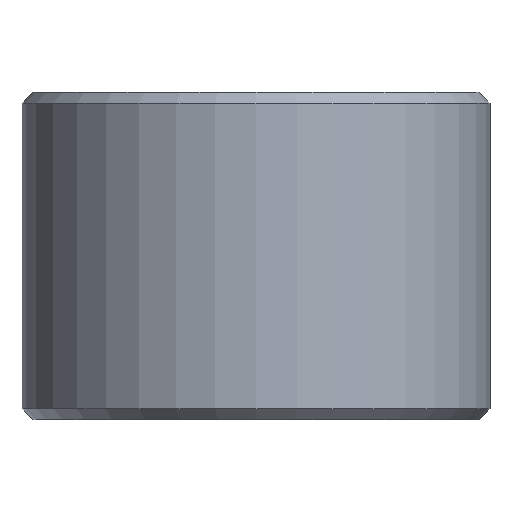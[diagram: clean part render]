
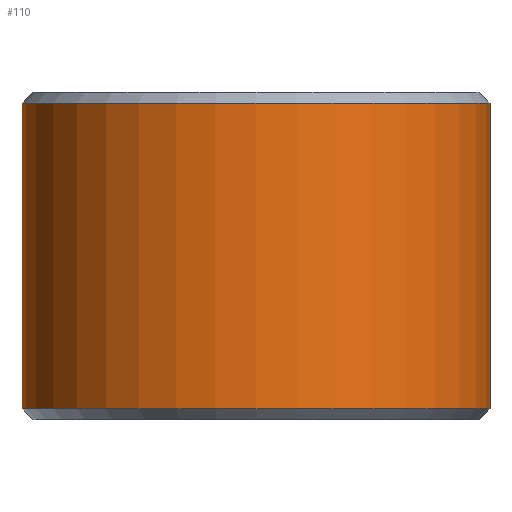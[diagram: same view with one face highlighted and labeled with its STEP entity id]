
A CAD part, front view. The second image highlights one B-rep face of the part: STEP entity #110.
In plain terms, the highlighted cylindrical face has radius 30 mm (diameter 60 mm), a partial arc.
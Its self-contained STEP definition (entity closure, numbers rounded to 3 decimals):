
#13 = CIRCLE ( 'NONE', #48, 30. ) ;
#21 = CIRCLE ( 'NONE', #254, 30. ) ;
#28 = LINE ( 'NONE', #34, #246 ) ;
#34 = CARTESIAN_POINT ( 'NONE',  ( 30., 0., 21. ) ) ;
#40 = CARTESIAN_POINT ( 'NONE',  ( -30., 0., 19.6 ) ) ;
#41 = DIRECTION ( 'NONE',  ( 1., 0., 0. ) ) ;
#48 = AXIS2_PLACEMENT_3D ( 'NONE', #376, #420, #41 ) ;
#72 = CARTESIAN_POINT ( 'NONE',  ( 30., 0., 19.6 ) ) ;
#83 = ORIENTED_EDGE ( 'NONE', *, *, #134, .F. ) ;
#99 = DIRECTION ( 'NONE',  ( 0., 0., -1. ) ) ;
#110 = ADVANCED_FACE ( 'NONE', ( #310 ), #446, .T. ) ;
#120 = EDGE_LOOP ( 'NONE', ( #83, #431, #433, #185 ) ) ;
#127 = CARTESIAN_POINT ( 'NONE',  ( 30., 0., -19.6 ) ) ;
#134 = EDGE_CURVE ( 'NONE', #214, #391, #28, .T. ) ;
#161 = CARTESIAN_POINT ( 'NONE',  ( 0., 0., -19.6 ) ) ;
#185 = ORIENTED_EDGE ( 'NONE', *, *, #396, .T. ) ;
#214 = VERTEX_POINT ( 'NONE', #72 ) ;
#216 = VERTEX_POINT ( 'NONE', #40 ) ;
#225 = DIRECTION ( 'NONE',  ( 0., 0., -1. ) ) ;
#234 = VECTOR ( 'NONE', #331, 1000. ) ;
#246 = VECTOR ( 'NONE', #225, 1000. ) ;
#254 = AXIS2_PLACEMENT_3D ( 'NONE', #161, #439, #261 ) ;
#261 = DIRECTION ( 'NONE',  ( 1., 0., 0. ) ) ;
#292 = VERTEX_POINT ( 'NONE', #318 ) ;
#310 = FACE_OUTER_BOUND ( 'NONE', #120, .T. ) ;
#318 = CARTESIAN_POINT ( 'NONE',  ( -30., 0., -19.6 ) ) ;
#327 = AXIS2_PLACEMENT_3D ( 'NONE', #332, #99, #409 ) ;
#331 = DIRECTION ( 'NONE',  ( 0., 0., -1. ) ) ;
#332 = CARTESIAN_POINT ( 'NONE',  ( 0., 0., 21. ) ) ;
#358 = EDGE_CURVE ( 'NONE', #214, #216, #13, .T. ) ;
#371 = CARTESIAN_POINT ( 'NONE',  ( -30., 0., 21. ) ) ;
#376 = CARTESIAN_POINT ( 'NONE',  ( 0., 0., 19.6 ) ) ;
#391 = VERTEX_POINT ( 'NONE', #127 ) ;
#396 = EDGE_CURVE ( 'NONE', #292, #391, #21, .T. ) ;
#404 = EDGE_CURVE ( 'NONE', #216, #292, #408, .T. ) ;
#408 = LINE ( 'NONE', #371, #234 ) ;
#409 = DIRECTION ( 'NONE',  ( -1., 0., 0. ) ) ;
#420 = DIRECTION ( 'NONE',  ( 0., 0., -1. ) ) ;
#431 = ORIENTED_EDGE ( 'NONE', *, *, #358, .T. ) ;
#433 = ORIENTED_EDGE ( 'NONE', *, *, #404, .T. ) ;
#439 = DIRECTION ( 'NONE',  ( 0., 0., 1. ) ) ;
#446 = CYLINDRICAL_SURFACE ( 'NONE', #327, 30. ) ;
